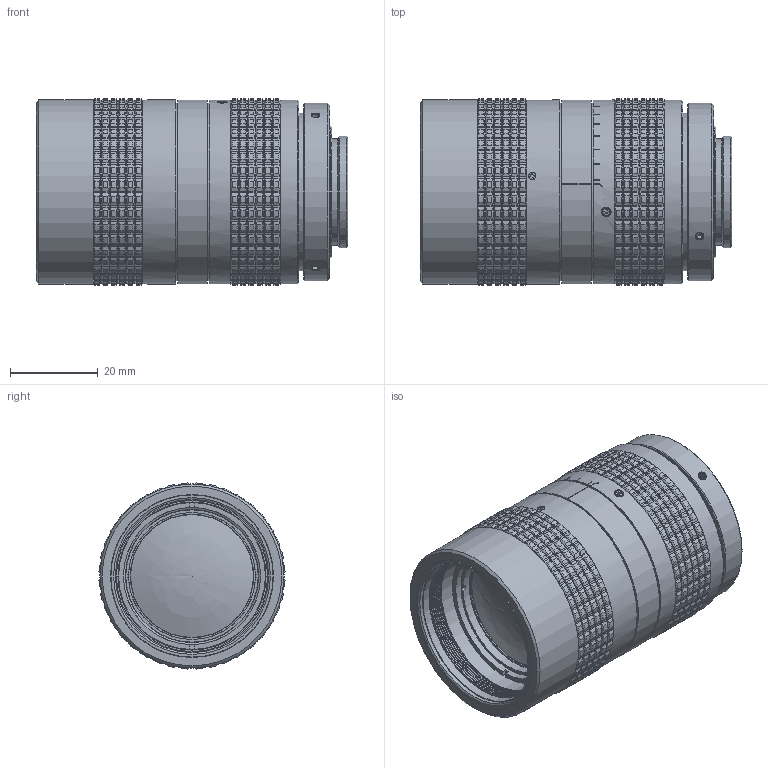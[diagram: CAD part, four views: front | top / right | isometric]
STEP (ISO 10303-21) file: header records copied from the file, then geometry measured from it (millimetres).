
FILE_DESCRIPTION(/* description */ (''),/* implementation_level */ '2;1');
FILE_NAME(/* name */ '0020-003-000-40_AP',/* time_stamp */ '2009-07-29T13:17:12+02:00',/* author */ (''),/* organization */ (''),/* preprocessor_version */ 'ST-DEVELOPER v9',/* originating_system */ 'UGS - NX 4.0',/* authorisation */ '');
FILE_SCHEMA (('AUTOMOTIVE_DESIGN { 1 0 10303 214 1 1 1 1 }'));
Products named in the file (1): pant4B41j2tj
Bounding box: 71.2 x 42.46 x 42.46 mm (x, y, z)
Volume: 79993.3 mm3; surface area: 25576.6 mm2
Topology: 1 solids, 19 shells, 3225 faces, 8453 edges, 5298 vertices
Faces by surface type: plane 1580, cone 1025, cylinder 600, torus 15, revolution 5
Full cylindrical faces by diameter (mm): 1.075 x2, 1.1 x2, 1.2 x3, 1.5 x2, 2 x1, 2.013 x3, 2.2 x1, 17 x1, 19 x2, 20.2 x2, 22.4 x1, 22.6 x1, 24.2 x1, 25.4 x1, 28.1 x1, 28.459 x1, 29 x1, 29.3 x1, 30 x2, 30.386 x1, 31.3 x2, 32 x2, 33.5 x2, 33.78 x1, 33.8 x2, 34.5 x3, 34.959 x1, 36 x2, 37 x1, 37.2 x2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
Entity records: 124553 total; most frequent: CARTESIAN_POINT 30460, ORIENTED_EDGE 16452, DIRECTION 12925, EDGE_CURVE 8226, AXIS2_PLACEMENT_3D 5373, VERTEX_POINT 5229, B_SPLINE_CURVE_WITH_KNOTS 3905, EDGE_LOOP 3422
